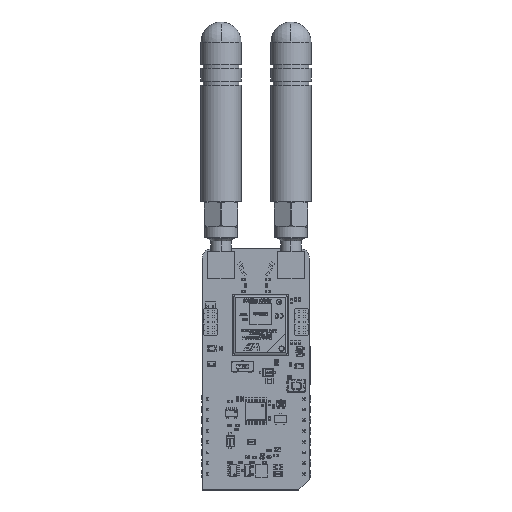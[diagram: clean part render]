
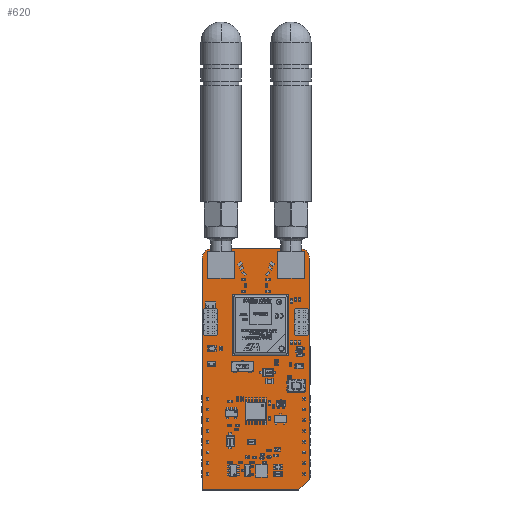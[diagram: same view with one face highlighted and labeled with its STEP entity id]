
A CAD part, top view. The second image highlights one B-rep face of the part: STEP entity #620.
In plain terms, the highlighted planar face has unit normal (0, 0, 1).
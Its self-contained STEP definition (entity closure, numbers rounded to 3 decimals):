
#391 = VERTEX_POINT('',#392);
#392 = CARTESIAN_POINT('',(-1.27,-3.81,0.));
#398 = EDGE_CURVE('',#391,#399,#401,.T.);
#399 = VERTEX_POINT('',#400);
#400 = CARTESIAN_POINT('',(-1.27,51.054,0.));
#401 = LINE('',#402,#403);
#402 = CARTESIAN_POINT('',(-1.27,-3.81,0.));
#403 = VECTOR('',#404,1.);
#404 = DIRECTION('',(0.,1.,0.));
#429 = EDGE_CURVE('',#399,#430,#432,.T.);
#430 = VERTEX_POINT('',#431);
#431 = CARTESIAN_POINT('',(1.016,53.34,0.));
#432 = CIRCLE('',#433,2.288);
#433 = AXIS2_PLACEMENT_3D('',#434,#435,#436);
#434 = CARTESIAN_POINT('',(1.018,51.052,0.));
#435 = DIRECTION('',(0.,0.,-1.));
#436 = DIRECTION('',(-1.,0.001,0.));
#462 = EDGE_CURVE('',#430,#463,#465,.T.);
#463 = VERTEX_POINT('',#464);
#464 = CARTESIAN_POINT('',(21.844,53.34,0.));
#465 = LINE('',#466,#467);
#466 = CARTESIAN_POINT('',(1.016,53.34,0.));
#467 = VECTOR('',#468,1.);
#468 = DIRECTION('',(1.,0.,0.));
#493 = EDGE_CURVE('',#463,#494,#496,.T.);
#494 = VERTEX_POINT('',#495);
#495 = CARTESIAN_POINT('',(24.13,51.054,0.));
#496 = CIRCLE('',#497,2.288);
#497 = AXIS2_PLACEMENT_3D('',#498,#499,#500);
#498 = CARTESIAN_POINT('',(21.842,51.052,0.));
#499 = DIRECTION('',(0.,0.,-1.));
#500 = DIRECTION('',(0.001,1.,0.));
#526 = EDGE_CURVE('',#494,#527,#529,.T.);
#527 = VERTEX_POINT('',#528);
#528 = CARTESIAN_POINT('',(24.13,-1.27,0.));
#529 = LINE('',#530,#531);
#530 = CARTESIAN_POINT('',(24.13,51.054,0.));
#531 = VECTOR('',#532,1.);
#532 = DIRECTION('',(0.,-1.,0.));
#557 = EDGE_CURVE('',#527,#558,#560,.T.);
#558 = VERTEX_POINT('',#559);
#559 = CARTESIAN_POINT('',(21.59,-3.81,0.));
#560 = LINE('',#561,#562);
#561 = CARTESIAN_POINT('',(24.13,-1.27,0.));
#562 = VECTOR('',#563,1.);
#563 = DIRECTION('',(-0.707,-0.707,0.));
#588 = EDGE_CURVE('',#558,#391,#589,.T.);
#589 = LINE('',#590,#591);
#590 = CARTESIAN_POINT('',(21.59,-3.81,0.));
#591 = VECTOR('',#592,1.);
#592 = DIRECTION('',(-1.,0.,0.));
#620 = ADVANCED_FACE('',(#621),#630,.T.);
#621 = FACE_BOUND('',#622,.F.);
#622 = EDGE_LOOP('',(#623,#624,#625,#626,#627,#628,#629));
#623 = ORIENTED_EDGE('',*,*,#398,.T.);
#624 = ORIENTED_EDGE('',*,*,#429,.T.);
#625 = ORIENTED_EDGE('',*,*,#462,.T.);
#626 = ORIENTED_EDGE('',*,*,#493,.T.);
#627 = ORIENTED_EDGE('',*,*,#526,.T.);
#628 = ORIENTED_EDGE('',*,*,#557,.T.);
#629 = ORIENTED_EDGE('',*,*,#588,.T.);
#630 = PLANE('',#631);
#631 = AXIS2_PLACEMENT_3D('',#632,#633,#634);
#632 = CARTESIAN_POINT('',(-1.27,-3.81,0.));
#633 = DIRECTION('',(0.,0.,1.));
#634 = DIRECTION('',(1.,0.,0.));
